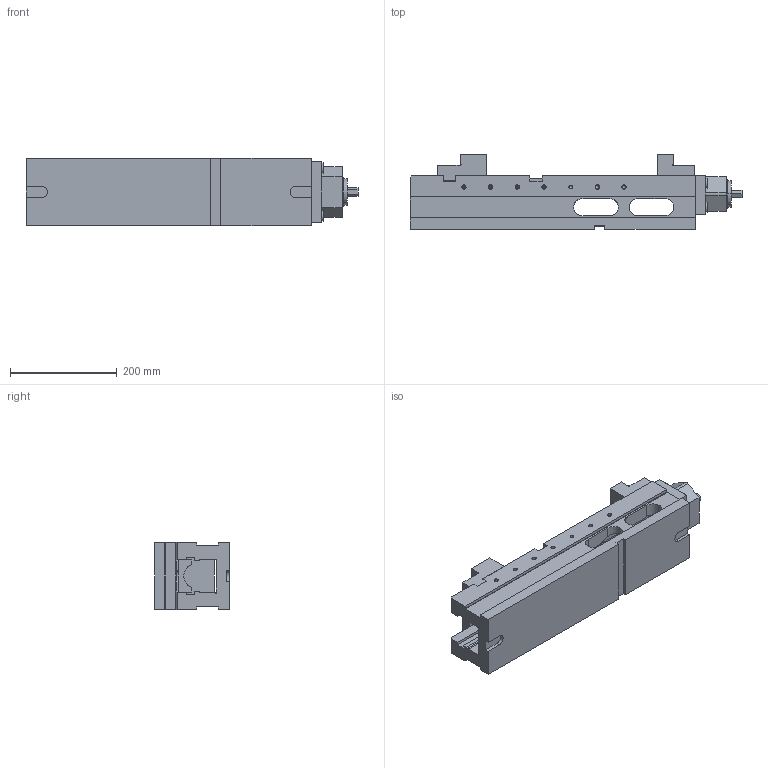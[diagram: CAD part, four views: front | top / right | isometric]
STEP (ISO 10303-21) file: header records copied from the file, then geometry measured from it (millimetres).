
FILE_DESCRIPTION((''),'2;1');
FILE_NAME('FG_VC_HIPR_00LCLNP001_ASM','2026-03-13T16:06:50',('Admin'),(''),'CREO PARAMETRIC BY PTC INC, 2025010','CREO PARAMETRIC BY PTC INC, 2025010','');
FILE_SCHEMA(('CONFIG_CONTROL_DESIGN'));
Length unit declared in the file: millimetre
Products named in the file (7): VICE_BODY_LONG; JAW_FIX_LC125; 3D-6921838000055; 6921688000955; MOVABLE_JAW_LC125; DIN912-M12X25-12_9; FG_VC_HIPR_00LCLNP001_ASM
Assembly tree (13 placements, depth 2):
  FG_VC_HIPR_00LCLNP001_ASM
    VICE_BODY_LONG
    JAW_FIX_LC125
    3D-6921838000055
    6921688000955
    MOVABLE_JAW_LC125
    DIN912-M12X25-12_9  x8
Bounding box: 622.2 x 139.5 x 126 mm (x, y, z)
Volume: 4934573.2 mm3; surface area: 624186.1 mm2
Topology: 13 solids, 37 shells, 676 faces, 1738 edges, 1116 vertices
Faces by surface type: plane 331, cylinder 223, cone 106, torus 16
Entity records: 16736 total; most frequent: CARTESIAN_POINT 3172, DIRECTION 2870, ORIENTED_EDGE 2670, EDGE_CURVE 1370, AXIS2_PLACEMENT_3D 995, VERTEX_POINT 906, VECTOR 880, LINE 880
